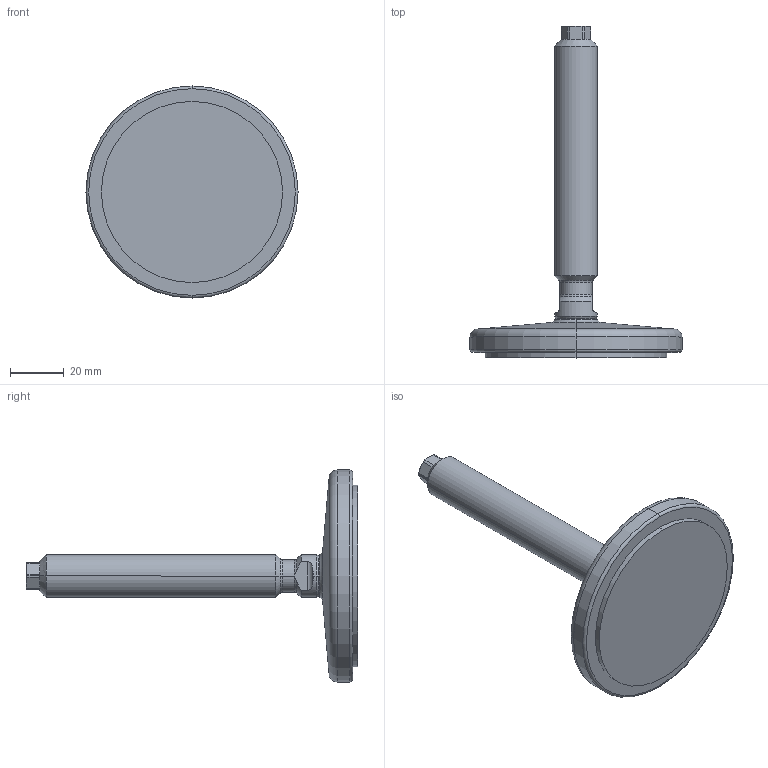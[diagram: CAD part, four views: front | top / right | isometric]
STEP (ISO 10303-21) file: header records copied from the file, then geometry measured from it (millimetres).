
FILE_DESCRIPTION (( 'STEP AP214' ), '1' );
FILE_NAME ('21-80-M16-100-D1-V.step', '2020-10-02T17:36:14', ( '' ), ( '' ), 'SwSTEP 2.0', 'SolidWorks 2019', '' );
FILE_SCHEMA (( 'AUTOMOTIVE_DESIGN' ));
Length unit declared in the file: millimetre
Products named in the file (3): WB21_Fußteller 21^WB21_V_D1-080-R10-B7 (M8 M10_M12_M16); 21-80-M16-100-D1-V; WB21_Spindel_V^WB21_V_M16-100
Assembly tree (2 placements, depth 2):
  21-80-M16-100-D1-V
    WB21_Fußteller 21^WB21_V_D1-080-R10-B7 (M8 M10_M12_M16)
    WB21_Spindel_V^WB21_V_M16-100
Bounding box: 79 x 123.64 x 79 mm (x, y, z)
Volume: 74619.6 mm3; surface area: 18022.7 mm2
Topology: 2 solids, 2 shells, 76 faces, 171 edges, 101 vertices
Faces by surface type: cylinder 25, plane 20, cone 17, torus 10, sphere 4
Entity records: 2391 total; most frequent: CARTESIAN_POINT 509, DIRECTION 390, ORIENTED_EDGE 342, EDGE_CURVE 171, AXIS2_PLACEMENT_3D 166, VERTEX_POINT 101, CIRCLE 85, EDGE_LOOP 78
